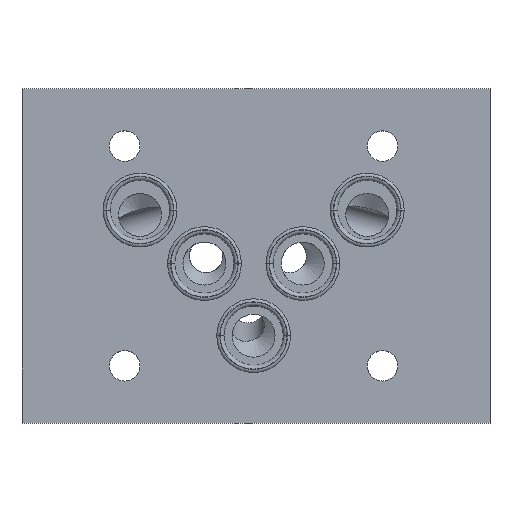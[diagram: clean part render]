
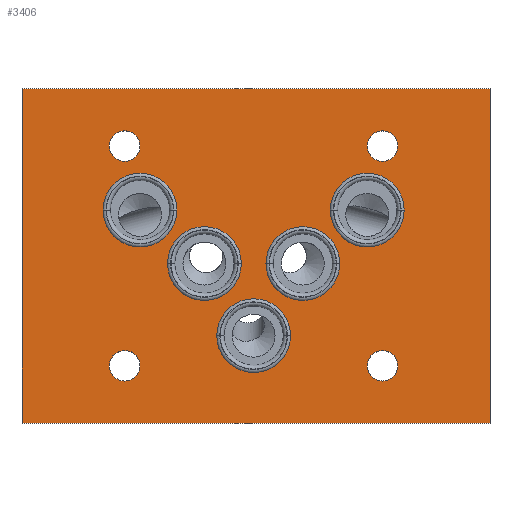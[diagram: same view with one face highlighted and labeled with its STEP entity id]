
A CAD part, top view. The second image highlights one B-rep face of the part: STEP entity #3406.
In plain terms, the highlighted planar face has unit normal (0, 0, 1).
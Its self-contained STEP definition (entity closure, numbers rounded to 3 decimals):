
#219=DIRECTION('',(0.,-1.,0.));
#220=VECTOR('',#219,70.);
#221=CARTESIAN_POINT('',(-49.,35.,0.));
#222=LINE('',#221,#220);
#226=DIRECTION('',(-1.,0.,0.));
#227=VECTOR('',#226,98.);
#228=CARTESIAN_POINT('',(49.,35.,0.));
#229=LINE('',#228,#227);
#233=DIRECTION('',(0.,1.,0.));
#234=VECTOR('',#233,70.);
#235=CARTESIAN_POINT('',(49.,-35.,0.));
#236=LINE('',#235,#234);
#240=DIRECTION('',(1.,0.,0.));
#241=VECTOR('',#240,98.);
#242=CARTESIAN_POINT('',(-49.,-35.,0.));
#243=LINE('',#242,#241);
#247=CARTESIAN_POINT('',(26.5,23.,0.));
#248=DIRECTION('',(0.,0.,-1.));
#249=DIRECTION('',(-1.,0.,0.));
#250=AXIS2_PLACEMENT_3D('',#247,#248,#249);
#255=CARTESIAN_POINT('',(26.5,23.,0.));
#256=DIRECTION('',(0.,0.,-1.));
#257=DIRECTION('',(1.,0.,0.));
#258=AXIS2_PLACEMENT_3D('',#255,#256,#257);
#263=CARTESIAN_POINT('',(26.5,-23.,0.));
#264=DIRECTION('',(0.,0.,-1.));
#265=DIRECTION('',(-1.,0.,0.));
#266=AXIS2_PLACEMENT_3D('',#263,#264,#265);
#271=CARTESIAN_POINT('',(26.5,-23.,0.));
#272=DIRECTION('',(0.,0.,-1.));
#273=DIRECTION('',(1.,0.,0.));
#274=AXIS2_PLACEMENT_3D('',#271,#272,#273);
#279=CARTESIAN_POINT('',(-27.5,-23.,0.));
#280=DIRECTION('',(0.,0.,-1.));
#281=DIRECTION('',(-1.,0.,0.));
#282=AXIS2_PLACEMENT_3D('',#279,#280,#281);
#287=CARTESIAN_POINT('',(-27.5,-23.,0.));
#288=DIRECTION('',(0.,0.,-1.));
#289=DIRECTION('',(1.,0.,0.));
#290=AXIS2_PLACEMENT_3D('',#287,#288,#289);
#295=CARTESIAN_POINT('',(-27.5,23.,0.));
#296=DIRECTION('',(0.,0.,-1.));
#297=DIRECTION('',(-1.,0.,0.));
#298=AXIS2_PLACEMENT_3D('',#295,#296,#297);
#303=CARTESIAN_POINT('',(-27.5,23.,0.));
#304=DIRECTION('',(0.,0.,-1.));
#305=DIRECTION('',(1.,0.,0.));
#306=AXIS2_PLACEMENT_3D('',#303,#304,#305);
#311=CARTESIAN_POINT('',(-0.5,-16.7,0.));
#312=DIRECTION('',(0.,0.,-1.));
#313=DIRECTION('',(-1.,0.,0.));
#314=AXIS2_PLACEMENT_3D('',#311,#312,#313);
#319=CARTESIAN_POINT('',(-0.5,-16.7,0.));
#320=DIRECTION('',(0.,0.,-1.));
#321=DIRECTION('',(1.,0.,0.));
#322=AXIS2_PLACEMENT_3D('',#319,#320,#321);
#327=CARTESIAN_POINT('',(9.8,-1.6,0.));
#328=DIRECTION('',(0.,0.,-1.));
#329=DIRECTION('',(-1.,0.,0.));
#330=AXIS2_PLACEMENT_3D('',#327,#328,#329);
#335=CARTESIAN_POINT('',(9.8,-1.6,0.));
#336=DIRECTION('',(0.,0.,-1.));
#337=DIRECTION('',(1.,0.,0.));
#338=AXIS2_PLACEMENT_3D('',#335,#336,#337);
#343=CARTESIAN_POINT('',(23.3,9.6,0.));
#344=DIRECTION('',(0.,0.,-1.));
#345=DIRECTION('',(-1.,0.,0.));
#346=AXIS2_PLACEMENT_3D('',#343,#344,#345);
#351=CARTESIAN_POINT('',(23.3,9.6,0.));
#352=DIRECTION('',(0.,0.,-1.));
#353=DIRECTION('',(1.,0.,0.));
#354=AXIS2_PLACEMENT_3D('',#351,#352,#353);
#359=CARTESIAN_POINT('',(-10.8,-1.6,0.));
#360=DIRECTION('',(0.,0.,-1.));
#361=DIRECTION('',(-1.,0.,0.));
#362=AXIS2_PLACEMENT_3D('',#359,#360,#361);
#367=CARTESIAN_POINT('',(-10.8,-1.6,0.));
#368=DIRECTION('',(0.,0.,-1.));
#369=DIRECTION('',(1.,0.,0.));
#370=AXIS2_PLACEMENT_3D('',#367,#368,#369);
#375=CARTESIAN_POINT('',(-24.3,9.6,0.));
#376=DIRECTION('',(0.,0.,-1.));
#377=DIRECTION('',(-1.,0.,0.));
#378=AXIS2_PLACEMENT_3D('',#375,#376,#377);
#383=CARTESIAN_POINT('',(-24.3,9.6,0.));
#384=DIRECTION('',(0.,0.,-1.));
#385=DIRECTION('',(1.,0.,0.));
#386=AXIS2_PLACEMENT_3D('',#383,#384,#385);
#3052=CARTESIAN_POINT('',(-49.,35.,0.));
#3053=CARTESIAN_POINT('',(-49.,-35.,0.));
#3054=VERTEX_POINT('',#3052);
#3055=VERTEX_POINT('',#3053);
#3056=CARTESIAN_POINT('',(49.,-35.,0.));
#3057=VERTEX_POINT('',#3056);
#3058=CARTESIAN_POINT('',(49.,35.,0.));
#3059=VERTEX_POINT('',#3058);
#3072=CARTESIAN_POINT('',(-8.225,-16.7,0.));
#3073=CARTESIAN_POINT('',(7.225,-16.7,0.));
#3074=VERTEX_POINT('',#3072);
#3075=VERTEX_POINT('',#3073);
#3080=CARTESIAN_POINT('',(2.075,-1.6,0.));
#3081=CARTESIAN_POINT('',(17.525,-1.6,0.));
#3082=VERTEX_POINT('',#3080);
#3083=VERTEX_POINT('',#3081);
#3088=CARTESIAN_POINT('',(15.575,9.6,0.));
#3089=CARTESIAN_POINT('',(31.025,9.6,0.));
#3090=VERTEX_POINT('',#3088);
#3091=VERTEX_POINT('',#3089);
#3096=CARTESIAN_POINT('',(-18.525,-1.6,0.));
#3097=CARTESIAN_POINT('',(-3.075,-1.6,0.));
#3098=VERTEX_POINT('',#3096);
#3099=VERTEX_POINT('',#3097);
#3104=CARTESIAN_POINT('',(-32.025,9.6,0.));
#3105=CARTESIAN_POINT('',(-16.575,9.6,0.));
#3106=VERTEX_POINT('',#3104);
#3107=VERTEX_POINT('',#3105);
#3273=CARTESIAN_POINT('',(23.3,23.,0.));
#3274=CARTESIAN_POINT('',(29.7,23.,0.));
#3275=VERTEX_POINT('',#3273);
#3276=VERTEX_POINT('',#3274);
#3277=CARTESIAN_POINT('',(23.3,-23.,0.));
#3278=CARTESIAN_POINT('',(29.7,-23.,0.));
#3279=VERTEX_POINT('',#3277);
#3280=VERTEX_POINT('',#3278);
#3281=CARTESIAN_POINT('',(-30.7,-23.,0.));
#3282=CARTESIAN_POINT('',(-24.3,-23.,0.));
#3283=VERTEX_POINT('',#3281);
#3284=VERTEX_POINT('',#3282);
#3285=CARTESIAN_POINT('',(-30.7,23.,0.));
#3286=CARTESIAN_POINT('',(-24.3,23.,0.));
#3287=VERTEX_POINT('',#3285);
#3288=VERTEX_POINT('',#3286);
#3337=CARTESIAN_POINT('',(0.,0.,0.));
#3338=DIRECTION('',(0.,0.,1.));
#3339=DIRECTION('',(1.,0.,0.));
#3340=AXIS2_PLACEMENT_3D('',#3337,#3338,#3339);
#3341=PLANE('',#3340);
#3343=ORIENTED_EDGE('',*,*,#3342,.F.);
#3345=ORIENTED_EDGE('',*,*,#3344,.F.);
#3347=ORIENTED_EDGE('',*,*,#3346,.F.);
#3349=ORIENTED_EDGE('',*,*,#3348,.F.);
#3350=EDGE_LOOP('',(#3343,#3345,#3347,#3349));
#3351=FACE_OUTER_BOUND('',#3350,.F.);
#3353=ORIENTED_EDGE('',*,*,#3352,.F.);
#3355=ORIENTED_EDGE('',*,*,#3354,.F.);
#3356=EDGE_LOOP('',(#3353,#3355));
#3357=FACE_BOUND('',#3356,.F.);
#3359=ORIENTED_EDGE('',*,*,#3358,.F.);
#3361=ORIENTED_EDGE('',*,*,#3360,.F.);
#3362=EDGE_LOOP('',(#3359,#3361));
#3363=FACE_BOUND('',#3362,.F.);
#3365=ORIENTED_EDGE('',*,*,#3364,.F.);
#3367=ORIENTED_EDGE('',*,*,#3366,.F.);
#3368=EDGE_LOOP('',(#3365,#3367));
#3369=FACE_BOUND('',#3368,.F.);
#3371=ORIENTED_EDGE('',*,*,#3370,.F.);
#3373=ORIENTED_EDGE('',*,*,#3372,.F.);
#3374=EDGE_LOOP('',(#3371,#3373));
#3375=FACE_BOUND('',#3374,.F.);
#3377=ORIENTED_EDGE('',*,*,#3376,.F.);
#3379=ORIENTED_EDGE('',*,*,#3378,.F.);
#3380=EDGE_LOOP('',(#3377,#3379));
#3381=FACE_BOUND('',#3380,.F.);
#3383=ORIENTED_EDGE('',*,*,#3382,.F.);
#3385=ORIENTED_EDGE('',*,*,#3384,.F.);
#3386=EDGE_LOOP('',(#3383,#3385));
#3387=FACE_BOUND('',#3386,.F.);
#3389=ORIENTED_EDGE('',*,*,#3388,.F.);
#3391=ORIENTED_EDGE('',*,*,#3390,.F.);
#3392=EDGE_LOOP('',(#3389,#3391));
#3393=FACE_BOUND('',#3392,.F.);
#3395=ORIENTED_EDGE('',*,*,#3394,.F.);
#3397=ORIENTED_EDGE('',*,*,#3396,.F.);
#3398=EDGE_LOOP('',(#3395,#3397));
#3399=FACE_BOUND('',#3398,.F.);
#3401=ORIENTED_EDGE('',*,*,#3400,.F.);
#3403=ORIENTED_EDGE('',*,*,#3402,.F.);
#3404=EDGE_LOOP('',(#3401,#3403));
#3405=FACE_BOUND('',#3404,.F.);
#251=CIRCLE('',#250,3.2);
#259=CIRCLE('',#258,3.2);
#267=CIRCLE('',#266,3.2);
#275=CIRCLE('',#274,3.2);
#283=CIRCLE('',#282,3.2);
#291=CIRCLE('',#290,3.2);
#299=CIRCLE('',#298,3.2);
#307=CIRCLE('',#306,3.2);
#315=CIRCLE('',#314,7.725);
#323=CIRCLE('',#322,7.725);
#331=CIRCLE('',#330,7.725);
#339=CIRCLE('',#338,7.725);
#347=CIRCLE('',#346,7.725);
#355=CIRCLE('',#354,7.725);
#363=CIRCLE('',#362,7.725);
#371=CIRCLE('',#370,7.725);
#379=CIRCLE('',#378,7.725);
#387=CIRCLE('',#386,7.725);
#3342=EDGE_CURVE('',#3054,#3055,#222,.T.);
#3344=EDGE_CURVE('',#3059,#3054,#229,.T.);
#3346=EDGE_CURVE('',#3057,#3059,#236,.T.);
#3348=EDGE_CURVE('',#3055,#3057,#243,.T.);
#3352=EDGE_CURVE('',#3275,#3276,#251,.T.);
#3354=EDGE_CURVE('',#3276,#3275,#259,.T.);
#3358=EDGE_CURVE('',#3279,#3280,#267,.T.);
#3360=EDGE_CURVE('',#3280,#3279,#275,.T.);
#3364=EDGE_CURVE('',#3283,#3284,#283,.T.);
#3366=EDGE_CURVE('',#3284,#3283,#291,.T.);
#3370=EDGE_CURVE('',#3287,#3288,#299,.T.);
#3372=EDGE_CURVE('',#3288,#3287,#307,.T.);
#3376=EDGE_CURVE('',#3074,#3075,#315,.T.);
#3378=EDGE_CURVE('',#3075,#3074,#323,.T.);
#3382=EDGE_CURVE('',#3082,#3083,#331,.T.);
#3384=EDGE_CURVE('',#3083,#3082,#339,.T.);
#3388=EDGE_CURVE('',#3090,#3091,#347,.T.);
#3390=EDGE_CURVE('',#3091,#3090,#355,.T.);
#3394=EDGE_CURVE('',#3098,#3099,#363,.T.);
#3396=EDGE_CURVE('',#3099,#3098,#371,.T.);
#3400=EDGE_CURVE('',#3106,#3107,#379,.T.);
#3402=EDGE_CURVE('',#3107,#3106,#387,.T.);
#3406=ADVANCED_FACE('',(#3351,#3357,#3363,#3369,#3375,#3381,#3387,#3393,#3399,
#3405),#3341,.T.);
